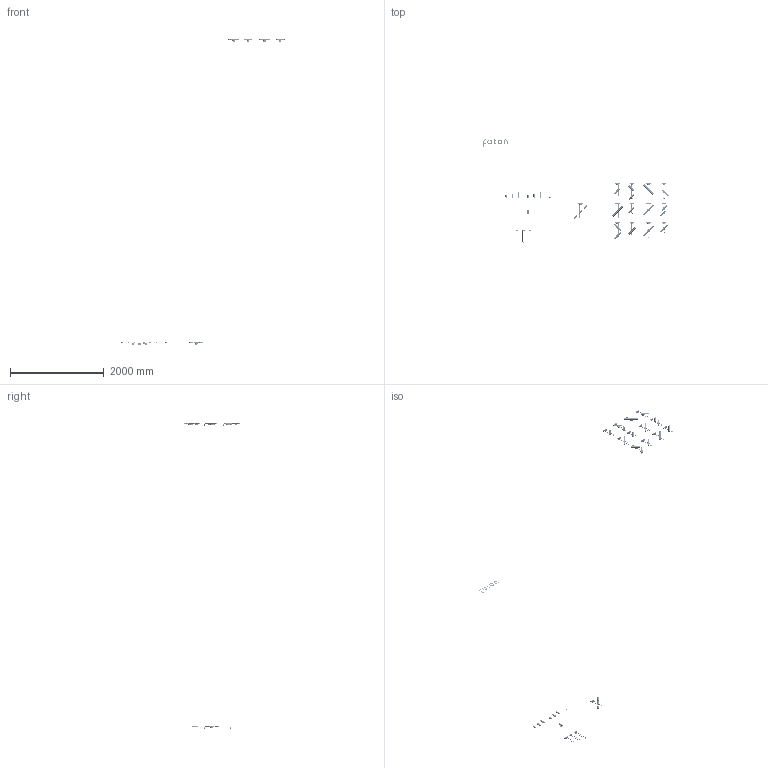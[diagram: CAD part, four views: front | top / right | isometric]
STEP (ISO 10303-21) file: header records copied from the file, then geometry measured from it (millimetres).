
FILE_DESCRIPTION(/* description */ (''),/* implementation_level */ '2;1');
FILE_NAME(/* name */ 'foton',/* time_stamp */ '2026-07-29T13:32:35+02:00',/* author */ (''),/* organization */ (''),/* preprocessor_version */ 'ST-DEVELOPER v19.2',/* originating_system */ 'Rhino 8.33',/* authorisation */ '');
FILE_SCHEMA (('CONFIG_CONTROL_DESIGN'));
Products named in the file (2): Document; Mocowanie_Delta v123456
Bounding box: 3956.66 x 2263.65 x 6547.99 mm (x, y, z)
Volume: 3887460.5 mm3; surface area: 1840973.1 mm2
Topology: 284 solids, 293 shells, 9123 faces, 21282 edges, 12718 vertices
Faces by surface type: bspline 4215, cylinder 3380, plane 1528
Full cylindrical faces by diameter (mm): 6 x32, 28 x111, 32 x56, 53 x43, 55 x60
Entity records: 101779 total; most frequent: CARTESIAN_POINT 50925, ORIENTED_EDGE 12012, DIRECTION 6638, EDGE_CURVE 6017, AXIS2_PLACEMENT_3D 4307, VERTEX_POINT 3602, EDGE_LOOP 3100, ADVANCED_FACE 3011
